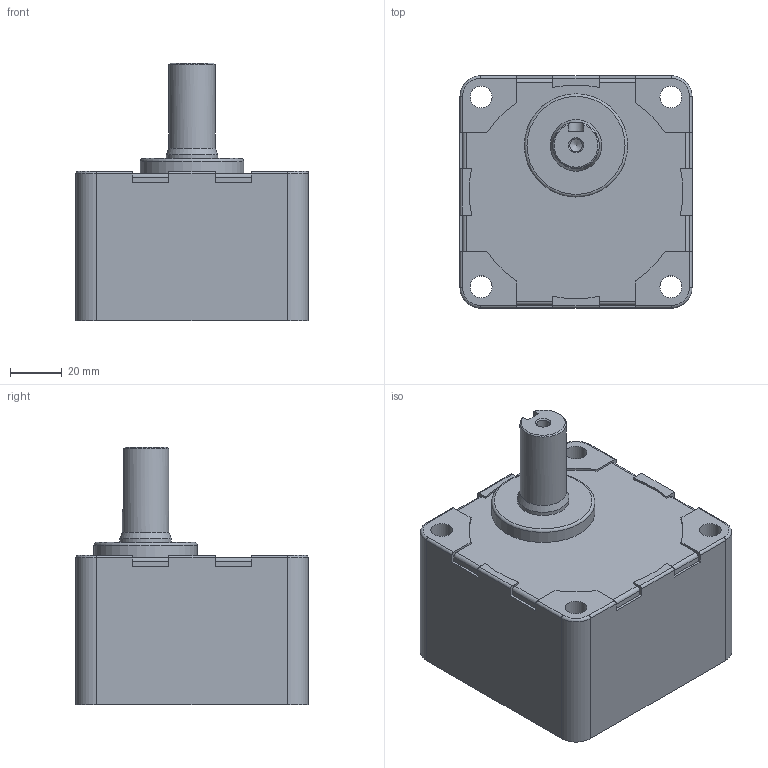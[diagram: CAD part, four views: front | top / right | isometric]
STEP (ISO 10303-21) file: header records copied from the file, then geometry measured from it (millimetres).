
FILE_DESCRIPTION(/* description */ (''),/* implementation_level */ '2;1');
FILE_NAME(/* name */ 'E:\도면작업\2016\0704) 미주향 SG 도면\3D GEAR HEAD\SG9KC18~40.stp',/* time_stamp */ '2016-07-22T14:05:09+09:00',/* author */ ('jy-jung'),/* organization */ (''),/* preprocessor_version */ 'ST-DEVELOPER v15.6',/* originating_system */ 'Autodesk Inventor 2015',/* authorisation */ '');
FILE_SCHEMA (('AUTOMOTIVE_DESIGN { 1 0 10303 214 3 1 1 }'));
Length unit declared in the file: millimetre
Products named in the file (1): SG9KC18~40
Bounding box: 90 x 90 x 100 mm (x, y, z)
Volume: 448602.3 mm3; surface area: 46209 mm2
Topology: 1 solids, 1 shells, 106 faces, 285 edges, 185 vertices
Faces by surface type: plane 53, cylinder 42, cone 6, torus 5
Full cylindrical faces by diameter (mm): 4.917 x1, 8.5 x4, 10.5 x1, 18 x1, 20 x1, 40 x1, 83 x1
Entity records: 3284 total; most frequent: CARTESIAN_POINT 581, DIRECTION 570, ORIENTED_EDGE 536, EDGE_CURVE 268, AXIS2_PLACEMENT_3D 199, VERTEX_POINT 184, LINE 172, VECTOR 172
